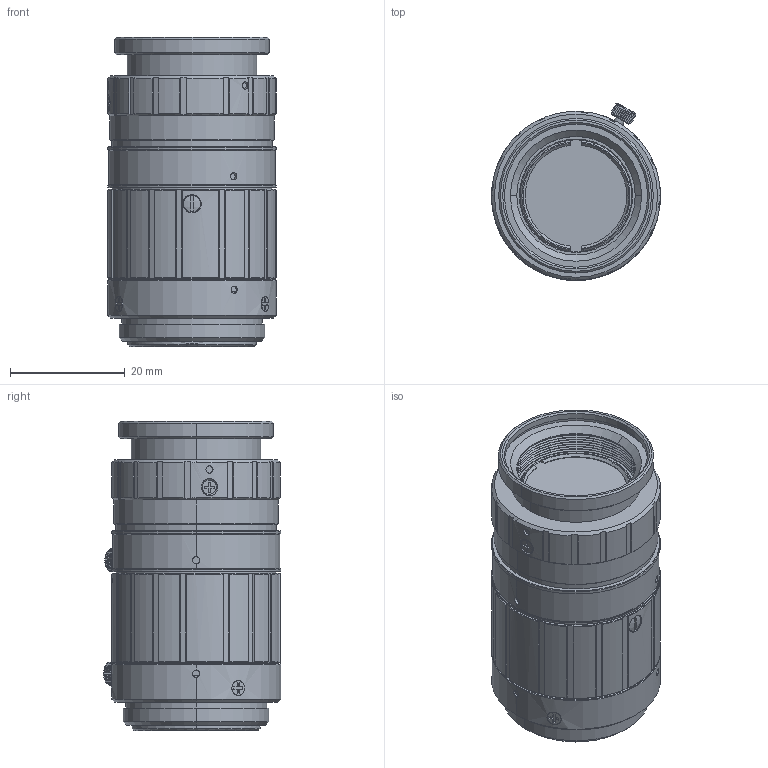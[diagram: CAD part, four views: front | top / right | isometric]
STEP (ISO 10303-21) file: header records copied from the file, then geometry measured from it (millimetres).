
FILE_DESCRIPTION (( 'STEP AP214' ), '1' );
FILE_NAME ('HF16XA-5M_3D_Modeling_20170120_ver1.0.STEP', '2017-01-20T06:44:12', ( '富士フイルム株式会社' ), ( '富士フイルム株式会社' ), 'SwSTEP 2.0', 'SolidWorks 2014', '' );
FILE_SCHEMA (( 'AUTOMOTIVE_DESIGN' ));
Length unit declared in the file: millimetre
Products named in the file (1): HF16XA-5M_3D_Modeling_20170120_ver1.0
Bounding box: 29.5 x 30.95 x 54 mm (x, y, z)
Volume: 31210.2 mm3; surface area: 7628.4 mm2
Topology: 1 solids, 3 shells, 581 faces, 1552 edges, 1013 vertices
Faces by surface type: plane 316, cone 133, cylinder 130, bspline 2
Entity records: 25506 total; most frequent: CARTESIAN_POINT 5289, ORIENTED_EDGE 3100, DIRECTION 2549, EDGE_CURVE 1550, VERTEX_POINT 1013, AXIS2_PLACEMENT_3D 925, LINE 699, VECTOR 699
